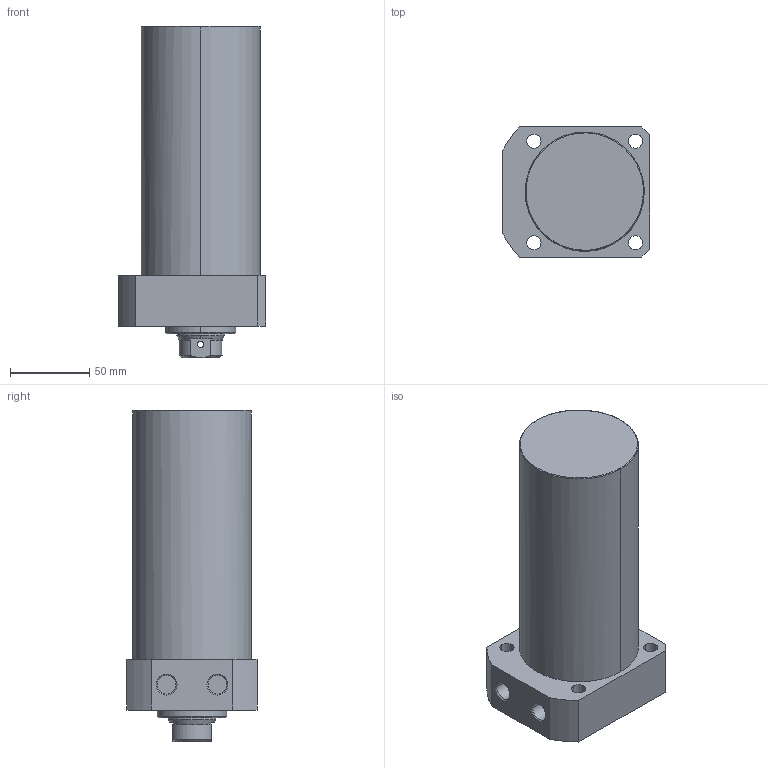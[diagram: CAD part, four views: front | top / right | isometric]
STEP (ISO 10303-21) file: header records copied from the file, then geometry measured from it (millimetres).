
FILE_DESCRIPTION((' '),'2;1');
FILE_NAME( 'TLLR-075CB-120.STEP.stp', '2025-10-24T16:35:09', (' '), ('--- Datakit www.datakit.com---'), ' Datakit CrossCadWare V2024.1 Dec 21 2023', 'Mastercam 2025', ' ');
FILE_SCHEMA(('AUTOMOTIVE_DESIGN { 1 0 10303 214 1 1 1 1 }'));
Length unit declared in the file: millimetre
Products named in the file (1): TLLR-075CB-120
Bounding box: 93 x 82 x 209 mm (x, y, z)
Volume: 928577.5 mm3; surface area: 70732.3 mm2
Topology: 1 solids, 1 shells, 67 faces, 197 edges, 136 vertices
Faces by surface type: cylinder 32, plane 19, cone 14, torus 2
Entity records: 3386 total; most frequent: CARTESIAN_POINT 1467, DIRECTION 426, ORIENTED_EDGE 390, EDGE_CURVE 195, AXIS2_PLACEMENT_3D 179, VERTEX_POINT 136, CIRCLE 111, EDGE_LOOP 85
